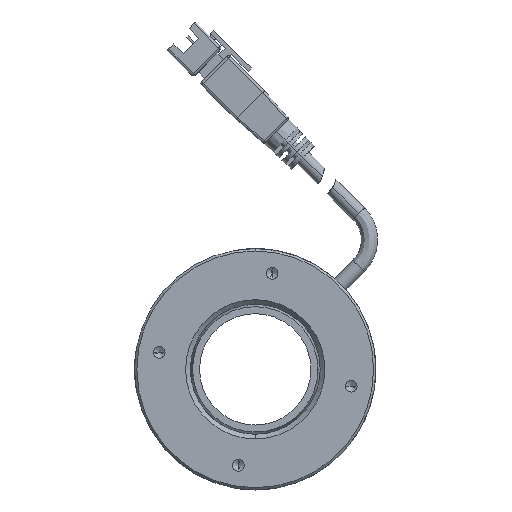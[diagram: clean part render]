
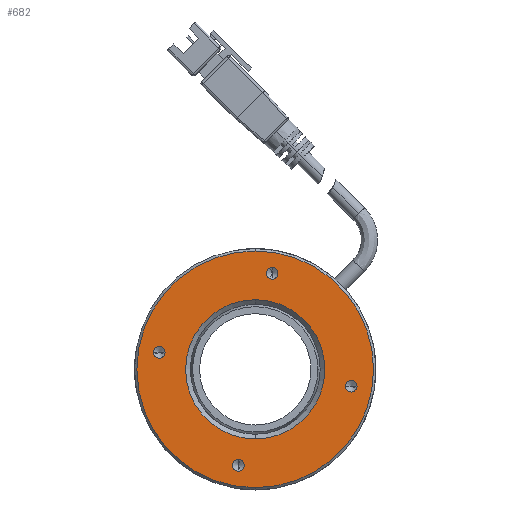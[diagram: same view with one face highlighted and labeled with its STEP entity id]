
A CAD part, front view. The second image highlights one B-rep face of the part: STEP entity #682.
In plain terms, the highlighted planar face has unit normal (0, -1, 0).
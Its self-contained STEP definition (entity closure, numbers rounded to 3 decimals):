
#192 = CARTESIAN_POINT ( 'NONE',  ( -19.431, 0., 3.647 ) ) ;
#387 = DIRECTION ( 'NONE',  ( 0., 0., -1. ) ) ;
#515 = EDGE_CURVE ( 'NONE', #5060, #2064, #7789, .T. ) ;
#577 = CIRCLE ( 'NONE', #2016, 1.25 ) ;
#682 = ADVANCED_FACE ( 'NONE', ( #2441, #3337, #4177, #7327, #4306, #11187 ), #4435, .T. ) ;
#714 = AXIS2_PLACEMENT_3D ( 'NONE', #2992, #1199, #7814 ) ;
#1199 = DIRECTION ( 'NONE',  ( 0., -1., 0. ) ) ;
#1221 = ORIENTED_EDGE ( 'NONE', *, *, #7926, .F. ) ;
#1300 = ORIENTED_EDGE ( 'NONE', *, *, #6569, .F. ) ;
#1338 = ORIENTED_EDGE ( 'NONE', *, *, #2680, .F. ) ;
#1419 = CARTESIAN_POINT ( 'NONE',  ( 0., 0., 15. ) ) ;
#1549 = AXIS2_PLACEMENT_3D ( 'NONE', #1768, #12321, #2598 ) ;
#1647 = AXIS2_PLACEMENT_3D ( 'NONE', #5272, #10299, #387 ) ;
#1661 = VERTEX_POINT ( 'NONE', #11980 ) ;
#1676 = DIRECTION ( 'NONE',  ( 0., 1., 0. ) ) ;
#1768 = CARTESIAN_POINT ( 'NONE',  ( -3.647, 0., -20.681 ) ) ;
#1798 = EDGE_CURVE ( 'NONE', #11252, #8485, #6805, .T. ) ;
#1833 = DIRECTION ( 'NONE',  ( 0., -1., 0. ) ) ;
#1954 = EDGE_CURVE ( 'NONE', #9344, #10362, #4338, .T. ) ;
#2016 = AXIS2_PLACEMENT_3D ( 'NONE', #12218, #8406, #2499 ) ;
#2064 = VERTEX_POINT ( 'NONE', #8213 ) ;
#2308 = EDGE_LOOP ( 'NONE', ( #4935, #10452 ) ) ;
#2441 = FACE_BOUND ( 'NONE', #8950, .T. ) ;
#2499 = DIRECTION ( 'NONE',  ( 1., 0., 0. ) ) ;
#2560 = CIRCLE ( 'NONE', #714, 1.25 ) ;
#2598 = DIRECTION ( 'NONE',  ( 0., 0., 1. ) ) ;
#2680 = EDGE_CURVE ( 'NONE', #2064, #5060, #3116, .T. ) ;
#2762 = CARTESIAN_POINT ( 'NONE',  ( 0., 0., 0. ) ) ;
#2819 = EDGE_CURVE ( 'NONE', #12673, #8908, #5594, .T. ) ;
#2947 = DIRECTION ( 'NONE',  ( 0., 0., -1. ) ) ;
#2992 = CARTESIAN_POINT ( 'NONE',  ( 3.647, 0., 20.681 ) ) ;
#3116 = CIRCLE ( 'NONE', #7441, 25.5 ) ;
#3337 = FACE_BOUND ( 'NONE', #5042, .T. ) ;
#3411 = CARTESIAN_POINT ( 'NONE',  ( 20.681, 0., -3.647 ) ) ;
#3416 = CARTESIAN_POINT ( 'NONE',  ( 0., 0., 0. ) ) ;
#3803 = CIRCLE ( 'NONE', #10596, 15. ) ;
#3924 = CARTESIAN_POINT ( 'NONE',  ( 0., 0., 0. ) ) ;
#3977 = CARTESIAN_POINT ( 'NONE',  ( 3.647, 0., 20.681 ) ) ;
#4177 = FACE_BOUND ( 'NONE', #4638, .T. ) ;
#4231 = DIRECTION ( 'NONE',  ( 0., -1., 0. ) ) ;
#4250 = DIRECTION ( 'NONE',  ( 0., 0., 1. ) ) ;
#4306 = FACE_BOUND ( 'NONE', #2308, .T. ) ;
#4338 = CIRCLE ( 'NONE', #12157, 1.25 ) ;
#4435 = PLANE ( 'NONE',  #1647 ) ;
#4484 = ORIENTED_EDGE ( 'NONE', *, *, #2819, .F. ) ;
#4638 = EDGE_LOOP ( 'NONE', ( #11776, #4484 ) ) ;
#4935 = ORIENTED_EDGE ( 'NONE', *, *, #7044, .T. ) ;
#4988 = CARTESIAN_POINT ( 'NONE',  ( 3.647, 0., 21.931 ) ) ;
#5038 = DIRECTION ( 'NONE',  ( 0., 0., 1. ) ) ;
#5042 = EDGE_LOOP ( 'NONE', ( #7265, #5644 ) ) ;
#5046 = AXIS2_PLACEMENT_3D ( 'NONE', #7489, #1833, #12580 ) ;
#5060 = VERTEX_POINT ( 'NONE', #12188 ) ;
#5272 = CARTESIAN_POINT ( 'NONE',  ( 0., 0., 0. ) ) ;
#5360 = DIRECTION ( 'NONE',  ( 0., -1., 0. ) ) ;
#5480 = EDGE_CURVE ( 'NONE', #11831, #1661, #9133, .T. ) ;
#5594 = CIRCLE ( 'NONE', #6202, 1.25 ) ;
#5644 = ORIENTED_EDGE ( 'NONE', *, *, #5480, .F. ) ;
#5656 = CIRCLE ( 'NONE', #8927, 15. ) ;
#6046 = CARTESIAN_POINT ( 'NONE',  ( -3.647, 0., -20.681 ) ) ;
#6112 = DIRECTION ( 'NONE',  ( 0., 0., 1. ) ) ;
#6202 = AXIS2_PLACEMENT_3D ( 'NONE', #6264, #5360, #7345 ) ;
#6264 = CARTESIAN_POINT ( 'NONE',  ( -20.681, 0., 3.647 ) ) ;
#6569 = EDGE_CURVE ( 'NONE', #10362, #9344, #2560, .T. ) ;
#6683 = DIRECTION ( 'NONE',  ( 0., 0., 1. ) ) ;
#6765 = AXIS2_PLACEMENT_3D ( 'NONE', #6046, #4231, #12086 ) ;
#6805 = CIRCLE ( 'NONE', #7011, 1.25 ) ;
#6835 = ORIENTED_EDGE ( 'NONE', *, *, #1798, .F. ) ;
#6843 = DIRECTION ( 'NONE',  ( 0., 1., 0. ) ) ;
#7011 = AXIS2_PLACEMENT_3D ( 'NONE', #3411, #7336, #8169 ) ;
#7044 = EDGE_CURVE ( 'NONE', #8968, #11454, #5656, .T. ) ;
#7265 = ORIENTED_EDGE ( 'NONE', *, *, #10186, .F. ) ;
#7327 = FACE_BOUND ( 'NONE', #7864, .T. ) ;
#7336 = DIRECTION ( 'NONE',  ( 0., -1., 0. ) ) ;
#7340 = DIRECTION ( 'NONE',  ( 0., 1., 0. ) ) ;
#7345 = DIRECTION ( 'NONE',  ( 1., 0., 0. ) ) ;
#7441 = AXIS2_PLACEMENT_3D ( 'NONE', #7930, #6843, #5038 ) ;
#7489 = CARTESIAN_POINT ( 'NONE',  ( 20.681, 0., -3.647 ) ) ;
#7537 = EDGE_CURVE ( 'NONE', #11454, #8968, #3803, .T. ) ;
#7588 = AXIS2_PLACEMENT_3D ( 'NONE', #3924, #11840, #6112 ) ;
#7715 = CIRCLE ( 'NONE', #5046, 1.25 ) ;
#7789 = CIRCLE ( 'NONE', #7588, 25.5 ) ;
#7814 = DIRECTION ( 'NONE',  ( 0., 0., -1. ) ) ;
#7864 = EDGE_LOOP ( 'NONE', ( #1300, #10833 ) ) ;
#7926 = EDGE_CURVE ( 'NONE', #8485, #11252, #7715, .T. ) ;
#7930 = CARTESIAN_POINT ( 'NONE',  ( 0., 0., 0. ) ) ;
#8169 = DIRECTION ( 'NONE',  ( -1., 0., 0. ) ) ;
#8213 = CARTESIAN_POINT ( 'NONE',  ( 0., 0., -25.5 ) ) ;
#8406 = DIRECTION ( 'NONE',  ( 0., -1., 0. ) ) ;
#8410 = CARTESIAN_POINT ( 'NONE',  ( -21.931, 0., 3.647 ) ) ;
#8485 = VERTEX_POINT ( 'NONE', #9262 ) ;
#8908 = VERTEX_POINT ( 'NONE', #192 ) ;
#8927 = AXIS2_PLACEMENT_3D ( 'NONE', #3416, #7340, #4250 ) ;
#8950 = EDGE_LOOP ( 'NONE', ( #1221, #6835 ) ) ;
#8968 = VERTEX_POINT ( 'NONE', #10289 ) ;
#8992 = EDGE_CURVE ( 'NONE', #8908, #12673, #577, .T. ) ;
#9133 = CIRCLE ( 'NONE', #1549, 1.25 ) ;
#9180 = ORIENTED_EDGE ( 'NONE', *, *, #515, .F. ) ;
#9262 = CARTESIAN_POINT ( 'NONE',  ( 19.431, 0., -3.647 ) ) ;
#9344 = VERTEX_POINT ( 'NONE', #4988 ) ;
#9439 = CIRCLE ( 'NONE', #6765, 1.25 ) ;
#9690 = CARTESIAN_POINT ( 'NONE',  ( -3.647, 0., -21.931 ) ) ;
#9842 = EDGE_LOOP ( 'NONE', ( #9180, #1338 ) ) ;
#10164 = CARTESIAN_POINT ( 'NONE',  ( 21.931, 0., -3.647 ) ) ;
#10186 = EDGE_CURVE ( 'NONE', #1661, #11831, #9439, .T. ) ;
#10289 = CARTESIAN_POINT ( 'NONE',  ( 0., 0., -15. ) ) ;
#10299 = DIRECTION ( 'NONE',  ( 0., -1., 0. ) ) ;
#10362 = VERTEX_POINT ( 'NONE', #12603 ) ;
#10452 = ORIENTED_EDGE ( 'NONE', *, *, #7537, .T. ) ;
#10596 = AXIS2_PLACEMENT_3D ( 'NONE', #2762, #1676, #6683 ) ;
#10833 = ORIENTED_EDGE ( 'NONE', *, *, #1954, .F. ) ;
#11187 = FACE_OUTER_BOUND ( 'NONE', #9842, .T. ) ;
#11252 = VERTEX_POINT ( 'NONE', #10164 ) ;
#11454 = VERTEX_POINT ( 'NONE', #1419 ) ;
#11766 = DIRECTION ( 'NONE',  ( 0., -1., 0. ) ) ;
#11776 = ORIENTED_EDGE ( 'NONE', *, *, #8992, .F. ) ;
#11831 = VERTEX_POINT ( 'NONE', #9690 ) ;
#11840 = DIRECTION ( 'NONE',  ( 0., 1., 0. ) ) ;
#11980 = CARTESIAN_POINT ( 'NONE',  ( -3.647, 0., -19.431 ) ) ;
#12086 = DIRECTION ( 'NONE',  ( 0., 0., 1. ) ) ;
#12157 = AXIS2_PLACEMENT_3D ( 'NONE', #3977, #11766, #2947 ) ;
#12188 = CARTESIAN_POINT ( 'NONE',  ( 0., 0., 25.5 ) ) ;
#12218 = CARTESIAN_POINT ( 'NONE',  ( -20.681, 0., 3.647 ) ) ;
#12321 = DIRECTION ( 'NONE',  ( 0., -1., 0. ) ) ;
#12580 = DIRECTION ( 'NONE',  ( -1., 0., 0. ) ) ;
#12603 = CARTESIAN_POINT ( 'NONE',  ( 3.647, 0., 19.431 ) ) ;
#12673 = VERTEX_POINT ( 'NONE', #8410 ) ;
